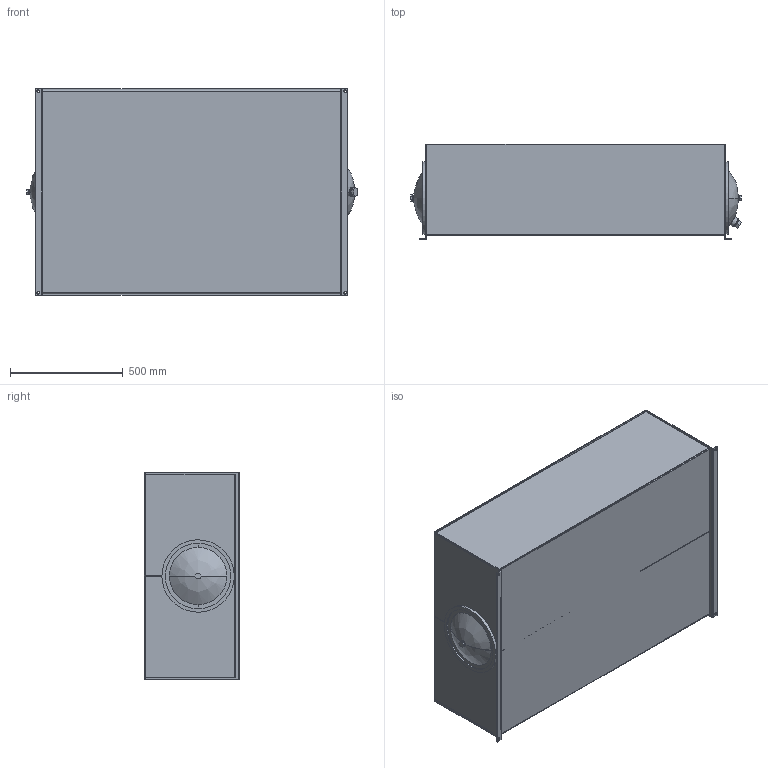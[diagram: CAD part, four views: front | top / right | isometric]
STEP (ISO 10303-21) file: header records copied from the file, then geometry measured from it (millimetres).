
FILE_DESCRIPTION (( 'STEP AP214' ), '1' );
FILE_NAME ('TH-100.STEP', '2026-04-22T18:35:11', ( '' ), ( '' ), 'SwSTEP 2.0', 'SolidWorks 2026', '' );
FILE_SCHEMA (( 'AUTOMOTIVE_DESIGN' ));
Length unit declared in the file: inch
Products named in the file (12): 0.625 - 11 BAFFLE NUT; 12.00 GASKET; TH-100; DRAIN; TH-100-TOP; TH-100-BDY; TL-ECD-12; 12.00 END COVER WITH DRAIN; CRUSH WASHER; TL-EC-12; TH-100-BFL; 0.625 - 11 HEX BOLT
Assembly tree (11 placements, depth 3):
  TH-100
    TH-100-TOP
    TH-100-BDY
    TH-100-BFL
    TL-ECD-12
      0.625 - 11 HEX BOLT
      0.625 - 11 BAFFLE NUT
      12.00 GASKET
      CRUSH WASHER
      12.00 END COVER WITH DRAIN
      DRAIN
    TL-EC-12
Bounding box: 1464.8 x 422.27 x 914.4 mm (x, y, z)
Volume: 16526306.7 mm3; surface area: 9861269.7 mm2
Topology: 10 solids, 16 shells, 222 faces, 523 edges, 332 vertices
Faces by surface type: plane 118, cylinder 88, bspline 8, cone 8
Entity records: 7076 total; most frequent: CARTESIAN_POINT 1399, DIRECTION 1173, ORIENTED_EDGE 1016, EDGE_CURVE 523, AXIS2_PLACEMENT_3D 432, VERTEX_POINT 332, VECTOR 309, LINE 309
